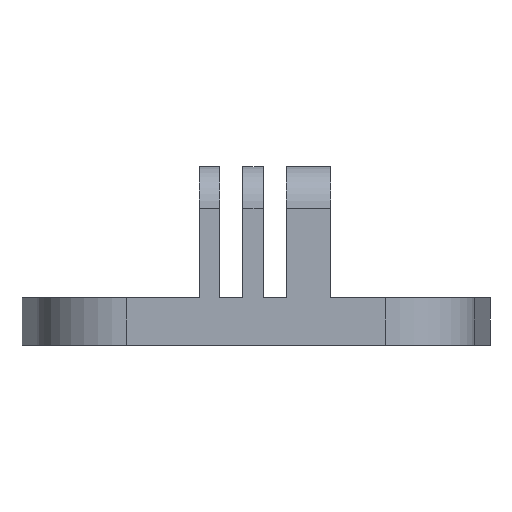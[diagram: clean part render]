
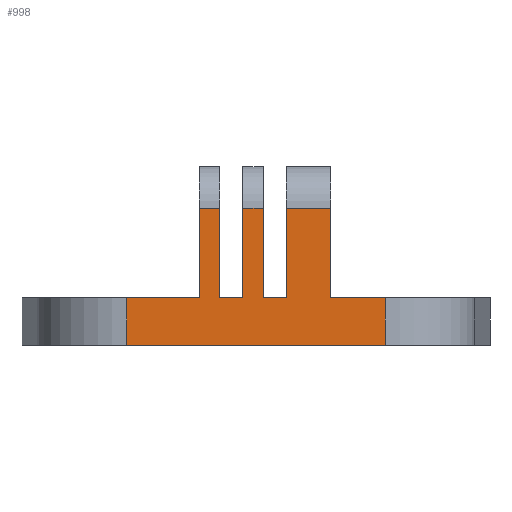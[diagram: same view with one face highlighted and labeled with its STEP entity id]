
A CAD part, front view. The second image highlights one B-rep face of the part: STEP entity #998.
In plain terms, the highlighted planar face has unit normal (0, -1, 0).
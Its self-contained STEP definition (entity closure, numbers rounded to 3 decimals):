
#26 = ORIENTED_EDGE ( 'NONE', *, *, #540, .F. ) ;
#53 = CARTESIAN_POINT ( 'NONE',  ( 13.05, -32.729, 23. ) ) ;
#57 = CARTESIAN_POINT ( 'NONE',  ( 22.203, -32.729, 8. ) ) ;
#61 = CARTESIAN_POINT ( 'NONE',  ( -5.55, -32.729, 8. ) ) ;
#68 = VECTOR ( 'NONE', #2957, 1000. ) ;
#74 = VECTOR ( 'NONE', #1564, 1000. ) ;
#105 = VERTEX_POINT ( 'NONE', #921 ) ;
#106 = LINE ( 'NONE', #1701, #1910 ) ;
#111 = VECTOR ( 'NONE', #1486, 1000. ) ;
#154 = CARTESIAN_POINT ( 'NONE',  ( -9.05, -32.729, 0. ) ) ;
#159 = CARTESIAN_POINT ( 'NONE',  ( 5.55, -32.729, 23. ) ) ;
#176 = ORIENTED_EDGE ( 'NONE', *, *, #1825, .F. ) ;
#229 = LINE ( 'NONE', #1954, #111 ) ;
#231 = VECTOR ( 'NONE', #793, 1000. ) ;
#243 = ORIENTED_EDGE ( 'NONE', *, *, #1104, .F. ) ;
#250 = EDGE_CURVE ( 'NONE', #740, #2696, #1549, .T. ) ;
#287 = VECTOR ( 'NONE', #1722, 1000. ) ;
#320 = CARTESIAN_POINT ( 'NONE',  ( -1.75, -32.729, 23. ) ) ;
#387 = VERTEX_POINT ( 'NONE', #2407 ) ;
#412 = EDGE_CURVE ( 'NONE', #1704, #2763, #106, .T. ) ;
#427 = ORIENTED_EDGE ( 'NONE', *, *, #1231, .F. ) ;
#473 = PLANE ( 'NONE',  #1439 ) ;
#497 = CARTESIAN_POINT ( 'NONE',  ( 13.05, -32.729, 23. ) ) ;
#540 = EDGE_CURVE ( 'NONE', #842, #2129, #1054, .T. ) ;
#544 = DIRECTION ( 'NONE',  ( 0., 0., 1. ) ) ;
#558 = LINE ( 'NONE', #1716, #287 ) ;
#605 = VECTOR ( 'NONE', #2507, 1000. ) ;
#621 = DIRECTION ( 'NONE',  ( 0., 0., 1. ) ) ;
#630 = VECTOR ( 'NONE', #621, 1000. ) ;
#677 = ORIENTED_EDGE ( 'NONE', *, *, #2864, .T. ) ;
#710 = ORIENTED_EDGE ( 'NONE', *, *, #1855, .F. ) ;
#740 = VERTEX_POINT ( 'NONE', #2013 ) ;
#760 = DIRECTION ( 'NONE',  ( 0., 0., -1. ) ) ;
#793 = DIRECTION ( 'NONE',  ( 0., 0., -1. ) ) ;
#818 = ORIENTED_EDGE ( 'NONE', *, *, #250, .F. ) ;
#842 = VERTEX_POINT ( 'NONE', #2290 ) ;
#846 = VECTOR ( 'NONE', #2439, 1000. ) ;
#848 = VECTOR ( 'NONE', #2783, 1000. ) ;
#908 = ORIENTED_EDGE ( 'NONE', *, *, #1348, .F. ) ;
#921 = CARTESIAN_POINT ( 'NONE',  ( 1.75, -32.729, 23. ) ) ;
#957 = VECTOR ( 'NONE', #760, 1000. ) ;
#968 = DIRECTION ( 'NONE',  ( -1., 0., 0. ) ) ;
#975 = VERTEX_POINT ( 'NONE', #2309 ) ;
#977 = EDGE_CURVE ( 'NONE', #105, #2030, #1171, .T. ) ;
#989 = LINE ( 'NONE', #2590, #848 ) ;
#998 = ADVANCED_FACE ( 'NONE', ( #1282 ), #473, .F. ) ;
#1004 = CARTESIAN_POINT ( 'NONE',  ( 13.05, -32.729, 8. ) ) ;
#1054 = LINE ( 'NONE', #2196, #1845 ) ;
#1066 = VECTOR ( 'NONE', #2086, 1000. ) ;
#1104 = EDGE_CURVE ( 'NONE', #2129, #1778, #558, .T. ) ;
#1117 = VERTEX_POINT ( 'NONE', #1004 ) ;
#1125 = ORIENTED_EDGE ( 'NONE', *, *, #977, .F. ) ;
#1171 = LINE ( 'NONE', #2503, #957 ) ;
#1174 = LINE ( 'NONE', #1184, #2900 ) ;
#1184 = CARTESIAN_POINT ( 'NONE',  ( -21.144, -32.729, 8. ) ) ;
#1213 = VERTEX_POINT ( 'NONE', #2628 ) ;
#1231 = EDGE_CURVE ( 'NONE', #2446, #387, #2346, .T. ) ;
#1271 = VERTEX_POINT ( 'NONE', #2197 ) ;
#1282 = FACE_OUTER_BOUND ( 'NONE', #2373, .T. ) ;
#1319 = EDGE_CURVE ( 'NONE', #2696, #105, #2860, .T. ) ;
#1348 = EDGE_CURVE ( 'NONE', #1704, #2446, #229, .T. ) ;
#1356 = CARTESIAN_POINT ( 'NONE',  ( -21.144, -32.729, 0. ) ) ;
#1381 = CARTESIAN_POINT ( 'NONE',  ( -21.144, -32.729, 0. ) ) ;
#1389 = LINE ( 'NONE', #57, #231 ) ;
#1394 = LINE ( 'NONE', #2805, #1676 ) ;
#1439 = AXIS2_PLACEMENT_3D ( 'NONE', #1666, #2110, #2827 ) ;
#1469 = DIRECTION ( 'NONE',  ( 0., 0., -1. ) ) ;
#1486 = DIRECTION ( 'NONE',  ( 1., 0., 0. ) ) ;
#1513 = EDGE_CURVE ( 'NONE', #1117, #975, #2607, .T. ) ;
#1521 = ORIENTED_EDGE ( 'NONE', *, *, #2190, .T. ) ;
#1523 = LINE ( 'NONE', #1381, #2387 ) ;
#1539 = CARTESIAN_POINT ( 'NONE',  ( 1.75, -32.729, 8. ) ) ;
#1549 = LINE ( 'NONE', #2058, #68 ) ;
#1564 = DIRECTION ( 'NONE',  ( 1., 0., 0. ) ) ;
#1592 = CARTESIAN_POINT ( 'NONE',  ( -9.05, -32.729, 23. ) ) ;
#1599 = ORIENTED_EDGE ( 'NONE', *, *, #1319, .F. ) ;
#1622 = ORIENTED_EDGE ( 'NONE', *, *, #2774, .F. ) ;
#1646 = DIRECTION ( 'NONE',  ( 1., 0., 0. ) ) ;
#1666 = CARTESIAN_POINT ( 'NONE',  ( -21.144, -32.729, 8. ) ) ;
#1673 = LINE ( 'NONE', #53, #1066 ) ;
#1676 = VECTOR ( 'NONE', #968, 1000. ) ;
#1701 = CARTESIAN_POINT ( 'NONE',  ( -21.144, -32.729, 8. ) ) ;
#1704 = VERTEX_POINT ( 'NONE', #2548 ) ;
#1716 = CARTESIAN_POINT ( 'NONE',  ( -9.05, -32.729, 23. ) ) ;
#1722 = DIRECTION ( 'NONE',  ( 1., 0., 0. ) ) ;
#1778 = VERTEX_POINT ( 'NONE', #497 ) ;
#1806 = EDGE_CURVE ( 'NONE', #1861, #740, #1174, .T. ) ;
#1825 = EDGE_CURVE ( 'NONE', #1778, #1117, #1673, .T. ) ;
#1845 = VECTOR ( 'NONE', #544, 1000. ) ;
#1855 = EDGE_CURVE ( 'NONE', #1213, #1861, #989, .T. ) ;
#1861 = VERTEX_POINT ( 'NONE', #61 ) ;
#1910 = VECTOR ( 'NONE', #1469, 1000. ) ;
#1917 = EDGE_CURVE ( 'NONE', #975, #1271, #1389, .T. ) ;
#1936 = ORIENTED_EDGE ( 'NONE', *, *, #1806, .F. ) ;
#1954 = CARTESIAN_POINT ( 'NONE',  ( -21.144, -32.729, 8. ) ) ;
#2013 = CARTESIAN_POINT ( 'NONE',  ( -1.75, -32.729, 8. ) ) ;
#2030 = VERTEX_POINT ( 'NONE', #1539 ) ;
#2034 = CARTESIAN_POINT ( 'NONE',  ( -21.144, -32.729, 8. ) ) ;
#2058 = CARTESIAN_POINT ( 'NONE',  ( -1.75, -32.729, 8. ) ) ;
#2065 = ORIENTED_EDGE ( 'NONE', *, *, #1917, .F. ) ;
#2086 = DIRECTION ( 'NONE',  ( 0., 0., -1. ) ) ;
#2106 = LINE ( 'NONE', #1592, #605 ) ;
#2110 = DIRECTION ( 'NONE',  ( 0., 1., 0. ) ) ;
#2129 = VERTEX_POINT ( 'NONE', #159 ) ;
#2190 = EDGE_CURVE ( 'NONE', #2763, #1271, #1523, .T. ) ;
#2196 = CARTESIAN_POINT ( 'NONE',  ( 5.55, -32.729, 8. ) ) ;
#2197 = CARTESIAN_POINT ( 'NONE',  ( 22.203, -32.729, 0. ) ) ;
#2290 = CARTESIAN_POINT ( 'NONE',  ( 5.55, -32.729, 8. ) ) ;
#2309 = CARTESIAN_POINT ( 'NONE',  ( 22.203, -32.729, 8. ) ) ;
#2346 = LINE ( 'NONE', #154, #630 ) ;
#2373 = EDGE_LOOP ( 'NONE', ( #2971, #176, #243, #26, #677, #1125, #1599, #818, #1936, #710, #1622, #427, #908, #2866, #1521, #2065 ) ) ;
#2387 = VECTOR ( 'NONE', #2540, 1000. ) ;
#2407 = CARTESIAN_POINT ( 'NONE',  ( -9.05, -32.729, 23. ) ) ;
#2439 = DIRECTION ( 'NONE',  ( 1., 0., 0. ) ) ;
#2446 = VERTEX_POINT ( 'NONE', #2629 ) ;
#2465 = CARTESIAN_POINT ( 'NONE',  ( -9.05, -32.729, 23. ) ) ;
#2503 = CARTESIAN_POINT ( 'NONE',  ( 1.75, -32.729, 8. ) ) ;
#2507 = DIRECTION ( 'NONE',  ( 1., 0., 0. ) ) ;
#2540 = DIRECTION ( 'NONE',  ( 1., 0., 0. ) ) ;
#2548 = CARTESIAN_POINT ( 'NONE',  ( -21.144, -32.729, 8. ) ) ;
#2590 = CARTESIAN_POINT ( 'NONE',  ( -5.55, -32.729, 8. ) ) ;
#2607 = LINE ( 'NONE', #2034, #74 ) ;
#2628 = CARTESIAN_POINT ( 'NONE',  ( -5.55, -32.729, 23. ) ) ;
#2629 = CARTESIAN_POINT ( 'NONE',  ( -9.05, -32.729, 8. ) ) ;
#2696 = VERTEX_POINT ( 'NONE', #320 ) ;
#2763 = VERTEX_POINT ( 'NONE', #1356 ) ;
#2774 = EDGE_CURVE ( 'NONE', #387, #1213, #2106, .T. ) ;
#2783 = DIRECTION ( 'NONE',  ( 0., 0., -1. ) ) ;
#2805 = CARTESIAN_POINT ( 'NONE',  ( -21.144, -32.729, 8. ) ) ;
#2827 = DIRECTION ( 'NONE',  ( 0., 0., 1. ) ) ;
#2860 = LINE ( 'NONE', #2465, #846 ) ;
#2864 = EDGE_CURVE ( 'NONE', #842, #2030, #1394, .T. ) ;
#2866 = ORIENTED_EDGE ( 'NONE', *, *, #412, .T. ) ;
#2900 = VECTOR ( 'NONE', #1646, 1000. ) ;
#2957 = DIRECTION ( 'NONE',  ( 0., 0., 1. ) ) ;
#2971 = ORIENTED_EDGE ( 'NONE', *, *, #1513, .F. ) ;
